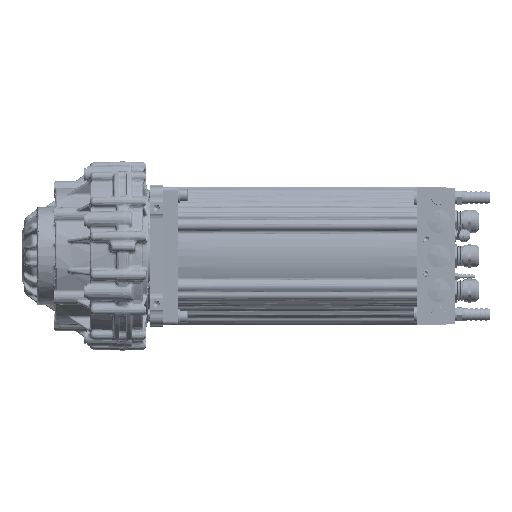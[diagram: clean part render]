
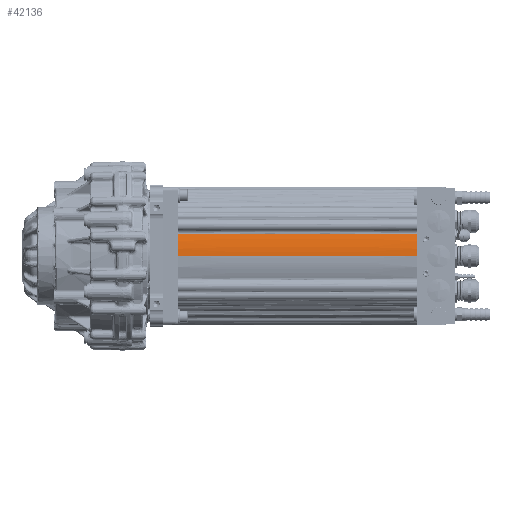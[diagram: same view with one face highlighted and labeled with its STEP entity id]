
A CAD part, left-side view. The second image highlights one B-rep face of the part: STEP entity #42136.
In plain terms, the highlighted face is a extrusion surface.
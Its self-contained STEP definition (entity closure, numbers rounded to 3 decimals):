
#40522=CARTESIAN_POINT('Line Origine',(31.5,-275.5,0.038)) ;
#40526=CARTESIAN_POINT('Vertex',(31.5,-120.4,0.038)) ;
#40528=CARTESIAN_POINT('Vertex',(31.5,-430.6,0.038)) ;
#40904=CARTESIAN_POINT('Control Point',(36.046,-120.4,28.161)) ;
#40905=CARTESIAN_POINT('Control Point',(34.239,-120.4,22.711)) ;
#40906=CARTESIAN_POINT('Control Point',(32.867,-120.4,17.144)) ;
#40907=CARTESIAN_POINT('Control Point',(31.953,-120.4,11.488)) ;
#40908=CARTESIAN_POINT('Control Point',(31.502,-120.4,5.774)) ;
#40909=CARTESIAN_POINT('Control Point',(31.5,-120.4,0.038)) ;
#40910=CARTESIAN_POINT('Vertex',(36.046,-120.4,28.161)) ;
#41692=CARTESIAN_POINT('Vertex',(36.046,-430.6,28.161)) ;
#41696=CARTESIAN_POINT('Control Point',(36.046,-430.6,28.161)) ;
#41697=CARTESIAN_POINT('Control Point',(34.239,-430.6,22.711)) ;
#41698=CARTESIAN_POINT('Control Point',(32.867,-430.6,17.144)) ;
#41699=CARTESIAN_POINT('Control Point',(31.953,-430.6,11.488)) ;
#41700=CARTESIAN_POINT('Control Point',(31.502,-430.6,5.774)) ;
#41701=CARTESIAN_POINT('Control Point',(31.5,-430.6,0.038)) ;
#42116=CARTESIAN_POINT('Control Point',(36.046,-100.,28.161)) ;
#42117=CARTESIAN_POINT('Control Point',(34.236,-100.,22.702)) ;
#42118=CARTESIAN_POINT('Control Point',(32.866,-100.,17.138)) ;
#42119=CARTESIAN_POINT('Control Point',(31.954,-100.,11.489)) ;
#42120=CARTESIAN_POINT('Control Point',(31.502,-100.,5.781)) ;
#42121=CARTESIAN_POINT('Control Point',(31.5,-100.,0.038)) ;
#42125=CARTESIAN_POINT('Line Origine',(36.046,-275.5,28.161)) ;
#40523=DIRECTION('Vector Direction',(0.,-1.,0.)) ;
#42122=DIRECTION('Vector Direction',(0.,-1.,0.)) ;
#42126=DIRECTION('Vector Direction',(0.,-1.,0.)) ;
#42131=ORIENTED_EDGE('',*,*,#42129,.F.) ;
#42132=ORIENTED_EDGE('',*,*,#40912,.T.) ;
#42133=ORIENTED_EDGE('',*,*,#40530,.T.) ;
#42134=ORIENTED_EDGE('',*,*,#41702,.F.) ;
#40524=VECTOR('Line Direction',#40523,1.) ;
#42123=VECTOR('Extrusion Surface Vector',#42122,1.) ;
#42127=VECTOR('Line Direction',#42126,1.) ;
#42136=ADVANCED_FACE('2U_MOTOR_INVERTER_ASSEMBLY',(#42135),#42124,.T.) ;
#40903=B_SPLINE_CURVE_WITH_KNOTS('',5,(#40904,#40905,#40906,#40907,#40908,#40909),.UNSPECIFIED.,.F.,.U.,(6,6),(0.,49.626),.UNSPECIFIED.) ;
#41695=B_SPLINE_CURVE_WITH_KNOTS('',5,(#41696,#41697,#41698,#41699,#41700,#41701),.UNSPECIFIED.,.F.,.U.,(6,6),(0.,49.626),.UNSPECIFIED.) ;
#42115=B_SPLINE_CURVE_WITH_KNOTS('',5,(#42116,#42117,#42118,#42119,#42120,#42121),.UNSPECIFIED.,.F.,.U.,(6,6),(0.,28.672),.UNSPECIFIED.) ;
#40530=EDGE_CURVE('',#40527,#40529,#40525,.T.) ;
#40912=EDGE_CURVE('',#40911,#40527,#40903,.T.) ;
#41702=EDGE_CURVE('',#41693,#40529,#41695,.T.) ;
#42129=EDGE_CURVE('',#40911,#41693,#42128,.T.) ;
#42130=EDGE_LOOP('',(#42131,#42132,#42133,#42134)) ;
#42135=FACE_OUTER_BOUND('',#42130,.T.) ;
#40525=LINE('Line',#40522,#40524) ;
#42128=LINE('Line',#42125,#42127) ;
#42124=SURFACE_OF_LINEAR_EXTRUSION('generated tabulated cylinder',#42115,#42123) ;
#40527=VERTEX_POINT('',#40526) ;
#40529=VERTEX_POINT('',#40528) ;
#40911=VERTEX_POINT('',#40910) ;
#41693=VERTEX_POINT('',#41692) ;
